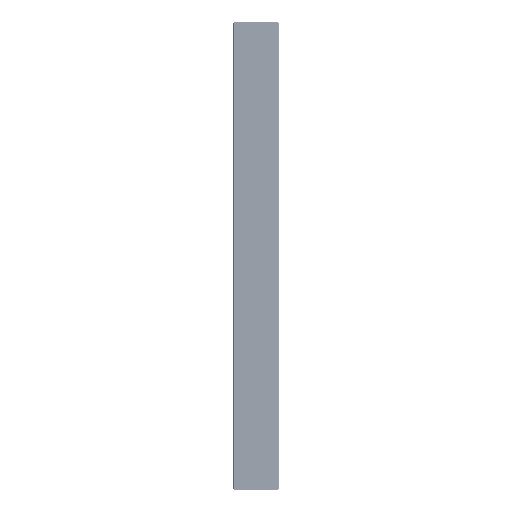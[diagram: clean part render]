
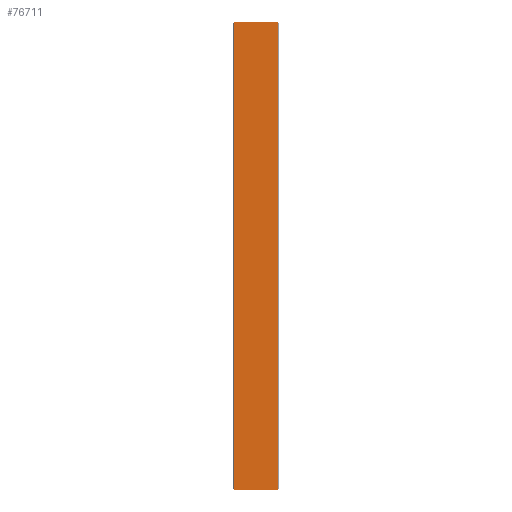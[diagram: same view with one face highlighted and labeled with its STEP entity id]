
A CAD part, front view. The second image highlights one B-rep face of the part: STEP entity #76711.
In plain terms, the highlighted planar face has unit normal (0, -1, 0).
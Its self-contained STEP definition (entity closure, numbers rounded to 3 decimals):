
#559=DIRECTION('',(1.,0.,0.));
#560=VECTOR('',#559,9.2);
#561=CARTESIAN_POINT('',(0.4,-100.,-50.));
#562=LINE('',#561,#560);
#14599=DIRECTION('',(0.,0.,-1.));
#14600=VECTOR('',#14599,100.);
#14601=CARTESIAN_POINT('',(9.6,-100.,50.));
#14602=LINE('',#14601,#14600);
#14603=DIRECTION('',(0.,0.,1.));
#14604=VECTOR('',#14603,100.);
#14605=CARTESIAN_POINT('',(0.4,-100.,-50.));
#14606=LINE('',#14605,#14604);
#14607=DIRECTION('',(1.,0.,0.));
#14608=VECTOR('',#14607,9.2);
#14609=CARTESIAN_POINT('',(0.4,-100.,50.));
#14610=LINE('',#14609,#14608);
#51475=CARTESIAN_POINT('',(9.6,-100.,50.));
#51477=VERTEX_POINT('',#51475);
#51482=CARTESIAN_POINT('',(9.6,-100.,-50.));
#51483=VERTEX_POINT('',#51482);
#51491=CARTESIAN_POINT('',(0.4,-100.,-50.));
#51493=VERTEX_POINT('',#51491);
#51504=CARTESIAN_POINT('',(0.4,-100.,50.));
#51505=VERTEX_POINT('',#51504);
#76698=CARTESIAN_POINT('',(0.,-100.,50.));
#76699=DIRECTION('',(0.,-1.,0.));
#76700=DIRECTION('',(0.,0.,-1.));
#76701=AXIS2_PLACEMENT_3D('',#76698,#76699,#76700);
#76702=PLANE('',#76701);
#76704=ORIENTED_EDGE('',*,*,#76703,.T.);
#76705=ORIENTED_EDGE('',*,*,#55315,.F.);
#76707=ORIENTED_EDGE('',*,*,#76706,.T.);
#76708=ORIENTED_EDGE('',*,*,#76689,.T.);
#76709=EDGE_LOOP('',(#76704,#76705,#76707,#76708));
#76710=FACE_OUTER_BOUND('',#76709,.F.);
#76711=ADVANCED_FACE('',(#76710),#76702,.T.);
#55315=EDGE_CURVE('',#51493,#51483,#562,.T.);
#76689=EDGE_CURVE('',#51505,#51477,#14610,.T.);
#76703=EDGE_CURVE('',#51477,#51483,#14602,.T.);
#76706=EDGE_CURVE('',#51493,#51505,#14606,.T.);
